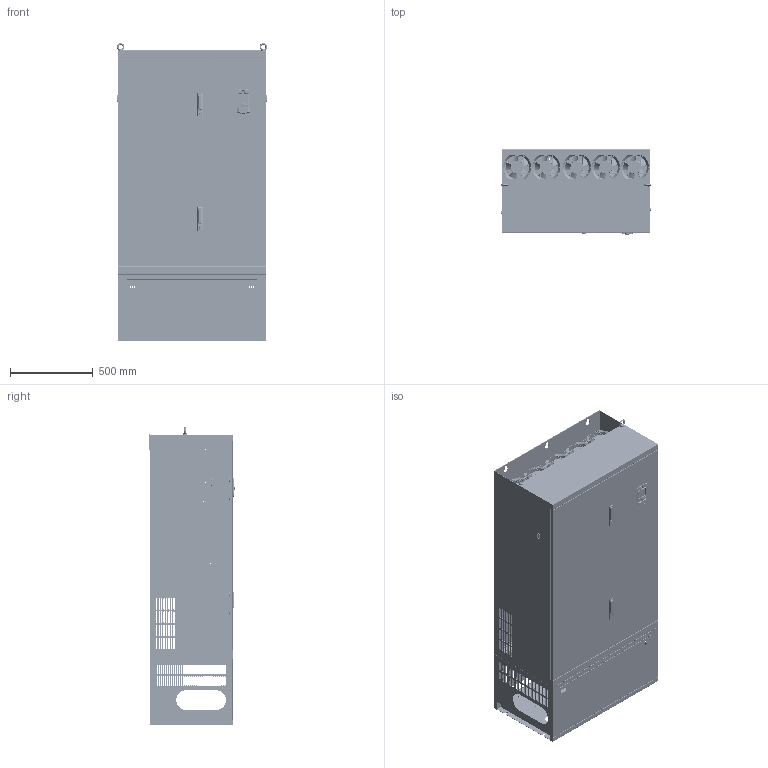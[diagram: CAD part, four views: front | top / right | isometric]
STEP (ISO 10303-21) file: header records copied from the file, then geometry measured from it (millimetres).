
FILE_DESCRIPTION((''),'2;1');
FILE_NAME('00-KC500-630_ASM_154_ASM','2024-08-16T',('Administrator'),(''),'PRO/ENGINEER BY PARAMETRIC TECHNOLOGY CORPORATION, 2010280','PRO/ENGINEER BY PARAMETRIC TECHNOLOGY CORPORATION, 2010280','');
FILE_SCHEMA(('AUTOMOTIVE_DESIGN { 1 0 10303 214 1 1 1 1 }'));
Products named in the file (122): KC500-630-01-01-01_49; KC500-630-01-01-01_ASM_55_ASM; KC500-630-01-01-02_58; KC500-630-01-01-02_ASM_52_ASM; KC500-630-01-01-03_41; KC500-630-01-01-03_ASM_51_ASM; KC500-630-01-01-04_58; BSO-3R5M3-22-ZC_22; KC500-630-01-01-04_ASM_65_ASM; KC500-630-01-01-05_61; S-M8-ZC_18; KC500-630-01-01-05_ASM_74_ASM; KC500-630-01-01-07_26; S-M5-ZC_14; KC500-630-01-01-07_ASM_33_ASM; KC500-630-01-01-09_25; KC500-630-01-01-09_ASM_35_ASM; DIAOHUANZHIJIA-L-1_1_1_1_5; DIAOHUANZHIJIA-L-2_1_1_1_5; DIAOHUANZHIJIA-L-3_1_1_1_5; DIAOHUANZHIJIA-L-4_1_1_1_5; DIAOHUANZHIJIA-L-5_1_1_1_5; DIAOHUANZHIJIA-L_ASM_7_ASM; DIAOHUANZHIJIA-R-1_1_1_1_5; DIAOHUANZHIJIA-R-2_1_1_1_5; DIAOHUANZHIJIA-R-3_1_1_1_5; DIAOHUANZHIJIA-R-4_1_1_1_5; DIAOHUANZHIJIA-R-5_1_1_1_5; DIAOHUANZHIJIA-R_ASM_7_ASM; GB12617-90_4X8_30-R0_10_7; KC500-630-01-01_ASM_129_ASM; KC500-630-01-02_26; S-M4-ZC_17; KC500-630-01-02_ASM_38_ASM; KC500-630-01-03_13; KC500-630-01-03_ASM_14_ASM; KC500-630-01-05_63; S-M6-ZC_16; KC500-630-01-05_ASM_70_ASM; KC500-630-01-06_19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
Assembly tree (311 placements, depth 7):
  00-KC500-630_ASM_154_ASM
    KC500-630-01_ASM_119_ASM
      KC500-630-01-01_ASM_129_ASM
        KC500-630-01-01-01_ASM_55_ASM
          KC500-630-01-01-01_49
        KC500-630-01-01-02_ASM_52_ASM
          KC500-630-01-01-02_58
        KC500-630-01-01-03_ASM_51_ASM
          KC500-630-01-01-03_41
        KC500-630-01-01-04_ASM_65_ASM
          KC500-630-01-01-04_58
          BSO-3R5M3-22-ZC_22  x16
        KC500-630-01-01-05_ASM_74_ASM
          KC500-630-01-01-05_61
          S-M8-ZC_18  x8
        KC500-630-01-01-07_ASM_33_ASM  x2
          KC500-630-01-01-07_26
          S-M5-ZC_14
        KC500-630-01-01-09_ASM_35_ASM  x4
          KC500-630-01-01-09_25
          S-M5-ZC_14
        DIAOHUANZHIJIA-L_ASM_7_ASM
          DIAOHUANZHIJIA-L-1_1_1_1_5
          DIAOHUANZHIJIA-L-2_1_1_1_5
          DIAOHUANZHIJIA-L-3_1_1_1_5
          DIAOHUANZHIJIA-L-4_1_1_1_5
          DIAOHUANZHIJIA-L-5_1_1_1_5
        DIAOHUANZHIJIA-R_ASM_7_ASM
          DIAOHUANZHIJIA-R-1_1_1_1_5
          DIAOHUANZHIJIA-R-2_1_1_1_5
          DIAOHUANZHIJIA-R-3_1_1_1_5
          DIAOHUANZHIJIA-R-4_1_1_1_5
          DIAOHUANZHIJIA-R-5_1_1_1_5
        GB12617-90_4X8_30-R0_10_7  x41
      KC500-630-01-02_ASM_38_ASM
        KC500-630-01-02_26
        S-M4-ZC_17  x6
      KC500-630-01-03_ASM_14_ASM
        KC500-630-01-03_13
        S-M4-ZC_17  x4
      KC500-630-01-05_ASM_70_ASM
        KC500-630-01-05_63
        S-M6-ZC_16  x6
        S-M8-ZC_18  x3
      KC500-630-01-06_ASM_16_ASM
        KC500-630-01-06_19
        S-M6-ZC_16  x6
      KC500-630-01-07_ASM_17_ASM
        KC500-630-01-07_16
        S-M5-ZC_14  x8
        BSO-3R5M3-10-ZC_22  x7
        BSO-3R5M3-22-ZC_22  x4
      KC500-630-01-08_ASM_33_ASM
        KC500-630-01-08_29
        S-M6-ZC_16  x6
      KC500-630-01-09_ASM_46_ASM
        KC500-630-01-09_46
        BSO-3R5M3-10-ZC_22  x4
        BSO-3R5M3-14-ZC_22  x5
        S-M3-ZC_18  x4
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Bounding box: 907 x 514.69 x 1799 mm (x, y, z)
Volume: 18014247.4 mm3; surface area: 18071531.4 mm2
Topology: 301 solids, 306 shells, 39686 faces, 113404 edges, 77641 vertices
Faces by surface type: plane 33912, cylinder 4002, cone 1222, bspline 272, torus 230, sphere 46, extrusion 2
Entity records: 378819 total; most frequent: CARTESIAN_POINT 62781, DIRECTION 50467, ORIENTED_EDGE 47998, EDGE_CURVE 24001, VECTOR 19373, LINE 19371, VERTEX_POINT 15548, AXIS2_PLACEMENT_3D 15547
